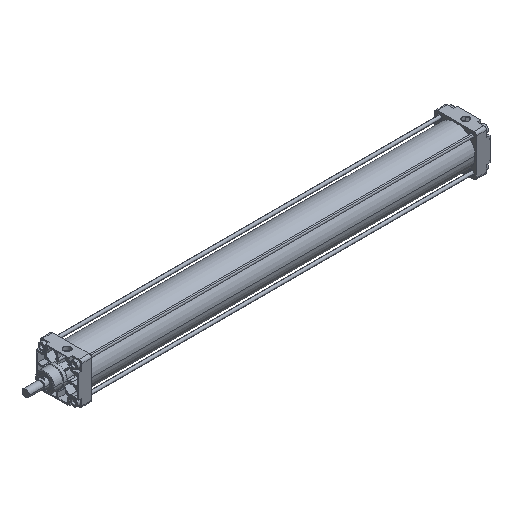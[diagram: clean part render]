
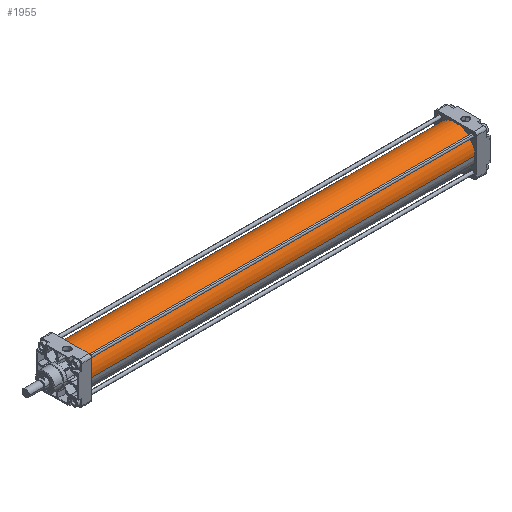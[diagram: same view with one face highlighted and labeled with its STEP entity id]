
A CAD part, isometric view. The second image highlights one B-rep face of the part: STEP entity #1955.
In plain terms, the highlighted cylindrical face has radius 53.5 mm (diameter 107 mm), a partial arc.
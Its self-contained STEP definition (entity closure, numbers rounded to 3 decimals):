
#1659=CARTESIAN_POINT('Axis2P3D Location',(0.,0.,0.)) ;
#1663=CARTESIAN_POINT('Vertex',(0.,53.5,0.)) ;
#1665=CARTESIAN_POINT('Vertex',(0.,-53.5,0.)) ;
#1925=CARTESIAN_POINT('Axis2P3D Location',(532.,0.,0.)) ;
#1930=CARTESIAN_POINT('Line Origine',(532.,53.5,0.)) ;
#1934=CARTESIAN_POINT('Vertex',(1064.,53.5,0.)) ;
#1937=CARTESIAN_POINT('Line Origine',(532.,-53.5,0.)) ;
#1941=CARTESIAN_POINT('Vertex',(1064.,-53.5,0.)) ;
#1944=CARTESIAN_POINT('Axis2P3D Location',(1064.,0.,0.)) ;
#1932=VECTOR('Line Direction',#1931,1.) ;
#1939=VECTOR('Line Direction',#1938,1.) ;
#1660=DIRECTION('Axis2P3D Direction',(1.,0.,0.)) ;
#1926=DIRECTION('Axis2P3D Direction',(1.,0.,0.)) ;
#1927=DIRECTION('Axis2P3D XDirection',(0.,1.,0.)) ;
#1931=DIRECTION('Vector Direction',(1.,0.,0.)) ;
#1938=DIRECTION('Vector Direction',(1.,0.,0.)) ;
#1945=DIRECTION('Axis2P3D Direction',(1.,0.,0.)) ;
#1661=AXIS2_PLACEMENT_3D('Circle Axis2P3D',#1659,#1660,$) ;
#1928=AXIS2_PLACEMENT_3D('Cylinder Axis2P3D',#1925,#1926,#1927) ;
#1946=AXIS2_PLACEMENT_3D('Circle Axis2P3D',#1944,#1945,$) ;
#1933=LINE('Line',#1930,#1932) ;
#1940=LINE('Line',#1937,#1939) ;
#1662=CIRCLE('generated circle',#1661,53.5) ;
#1947=CIRCLE('generated circle',#1946,53.5) ;
#1929=CYLINDRICAL_SURFACE('generated cylinder',#1928,53.5) ;
#1667=EDGE_CURVE('',#1664,#1666,#1662,.T.) ;
#1936=EDGE_CURVE('',#1664,#1935,#1933,.T.) ;
#1943=EDGE_CURVE('',#1666,#1942,#1940,.T.) ;
#1948=EDGE_CURVE('',#1935,#1942,#1947,.T.) ;
#1949=EDGE_LOOP('',(#1950,#1951,#1952,#1953)) ;
#1950=ORIENTED_EDGE('',*,*,#1936,.F.) ;
#1951=ORIENTED_EDGE('',*,*,#1667,.T.) ;
#1952=ORIENTED_EDGE('',*,*,#1943,.T.) ;
#1953=ORIENTED_EDGE('',*,*,#1948,.F.) ;
#1664=VERTEX_POINT('',#1663) ;
#1666=VERTEX_POINT('',#1665) ;
#1935=VERTEX_POINT('',#1934) ;
#1942=VERTEX_POINT('',#1941) ;
#1955=ADVANCED_FACE('PartBody',(#1954),#1929,.T.) ;
#1954=FACE_OUTER_BOUND('',#1949,.T.) ;
